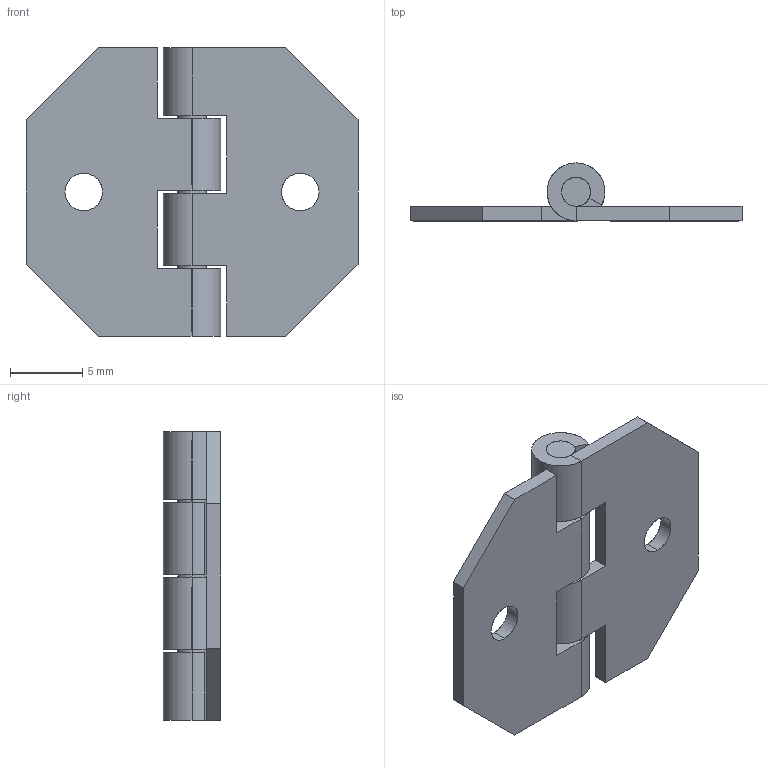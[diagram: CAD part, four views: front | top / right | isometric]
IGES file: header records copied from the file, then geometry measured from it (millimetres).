
Start section: SolidWorks IGES file using analytic representation for surfaces
Global section: file name: C:\Users\cbrechard\Desktop\CC 445.IGS; native system: SolidWorks 2017; preprocessor: SolidWorks 2017; author: cbrechard; date: 191014.101023; units: millimetre
Bounding box: 23 x 4 x 20 mm (x, y, z)
Surface area: 1335.6 mm2 (no closed solid volume)
Topology: 0 solids, 0 shells, 68 faces, 888 edges, 888 vertices
Faces by surface type: bspline 38, revolution 30
